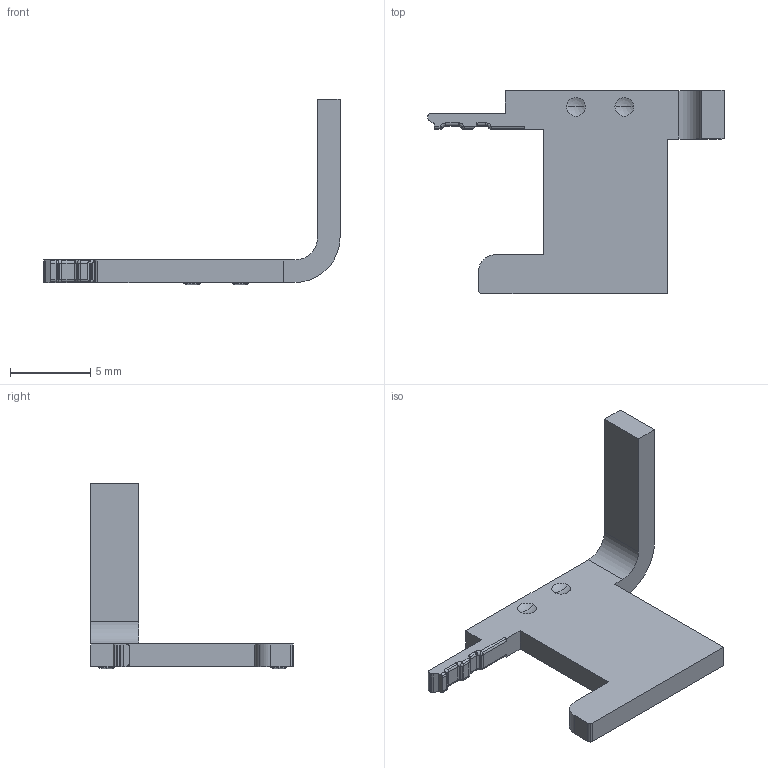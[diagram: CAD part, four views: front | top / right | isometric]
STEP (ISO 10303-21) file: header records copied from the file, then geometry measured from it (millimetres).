
FILE_DESCRIPTION((''),'2;1');
FILE_NAME('CONTACT_1','2005-10-17T',('kuehlmayerf'),(''),'PRO/ENGINEER BY PARAMETRIC TECHNOLOGY CORPORATION, 2003490','PRO/ENGINEER BY PARAMETRIC TECHNOLOGY CORPORATION, 2003490','');
FILE_SCHEMA(('CONFIG_CONTROL_DESIGN'));
Length unit declared in the file: millimetre
Products named in the file (1): CONTACT_1
Bounding box: 18.4 x 12.6 x 11.55 mm (x, y, z)
Volume: 216.1 mm3; surface area: 431.7 mm2
Topology: 1 solids, 1 shells, 108 faces, 300 edges, 182 vertices
Faces by surface type: cylinder 54, plane 24, sphere 18, torus 10, bspline 2
Entity records: 3593 total; most frequent: CARTESIAN_POINT 792, DIRECTION 627, ORIENTED_EDGE 564, EDGE_CURVE 282, AXIS2_PLACEMENT_3D 253, VERTEX_POINT 182, CIRCLE 147, VECTOR 121
